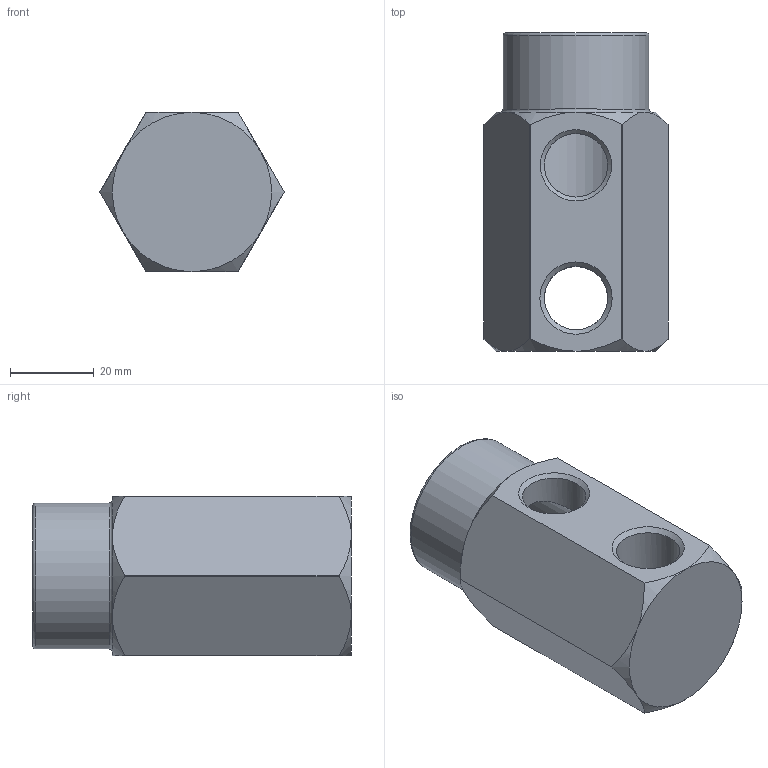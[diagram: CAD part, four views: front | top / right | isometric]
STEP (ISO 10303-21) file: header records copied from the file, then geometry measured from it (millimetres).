
FILE_DESCRIPTION(/* description */ (''),/* implementation_level */ '2;1');
FILE_NAME(/* name */ 'C:/Users/drich/Desktop/341H-6 v4.step',/* time_stamp */ '2020-01-14T20:52:15-06:00',/* author */ (''),/* organization */ (''),/* preprocessor_version */ 'ST-DEVELOPER v18',/* originating_system */ 'Autodesk Translation Framework v8.12.0.6',/* authorisation */ '');
FILE_SCHEMA (('AUTOMOTIVE_DESIGN { 1 0 10303 214 3 1 1 }'));
Length unit declared in the file: inch
Products named in the file (2): 341H-6; 341H-4
Assembly tree (1 placements, depth 2):
  341H-6
    341H-4
Bounding box: 43.99 x 76.2 x 38.1 mm (x, y, z)
Volume: 59164.9 mm3; surface area: 16713.9 mm2
Topology: 1 solids, 1 shells, 42 faces, 109 edges, 69 vertices
Faces by surface type: cone 19, cylinder 12, plane 9, torus 2
Full cylindrical faces by diameter (mm): 14.516 x1, 15.173 x3, 24.387 x1, 34.9 x1
Entity records: 1441 total; most frequent: CARTESIAN_POINT 382, DIRECTION 219, ORIENTED_EDGE 218, EDGE_CURVE 109, AXIS2_PLACEMENT_3D 98, VERTEX_POINT 69, CIRCLE 53, EDGE_LOOP 48
